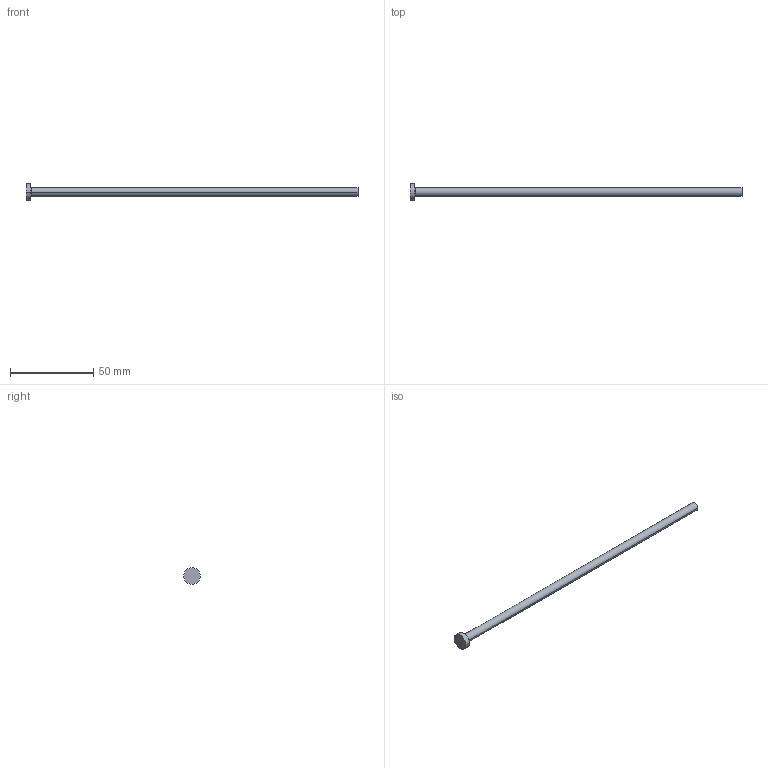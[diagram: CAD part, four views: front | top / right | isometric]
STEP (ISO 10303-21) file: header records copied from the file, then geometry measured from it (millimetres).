
FILE_DESCRIPTION (( 'STEP AP214' ), '1' );
FILE_NAME ('A-5,2x200.STEP', '2020-05-29T10:30:25', ( 'August' ), ( '' ), 'SwSTEP 2.0', 'SolidWorks 2018', '' );
FILE_SCHEMA (( 'AUTOMOTIVE_DESIGN' ));
Length unit declared in the file: millimetre
Products named in the file (1): A-5,2x200
Bounding box: 200 x 10 x 10 mm (x, y, z)
Volume: 4419.7 mm3; surface area: 3467.5 mm2
Topology: 1 solids, 1 shells, 9 faces, 16 edges, 10 vertices
Faces by surface type: cylinder 4, plane 3, torus 2
Entity records: 260 total; most frequent: DIRECTION 48, CARTESIAN_POINT 36, ORIENTED_EDGE 32, AXIS2_PLACEMENT_3D 22, EDGE_CURVE 16, CIRCLE 12, EDGE_LOOP 10, VERTEX_POINT 10
